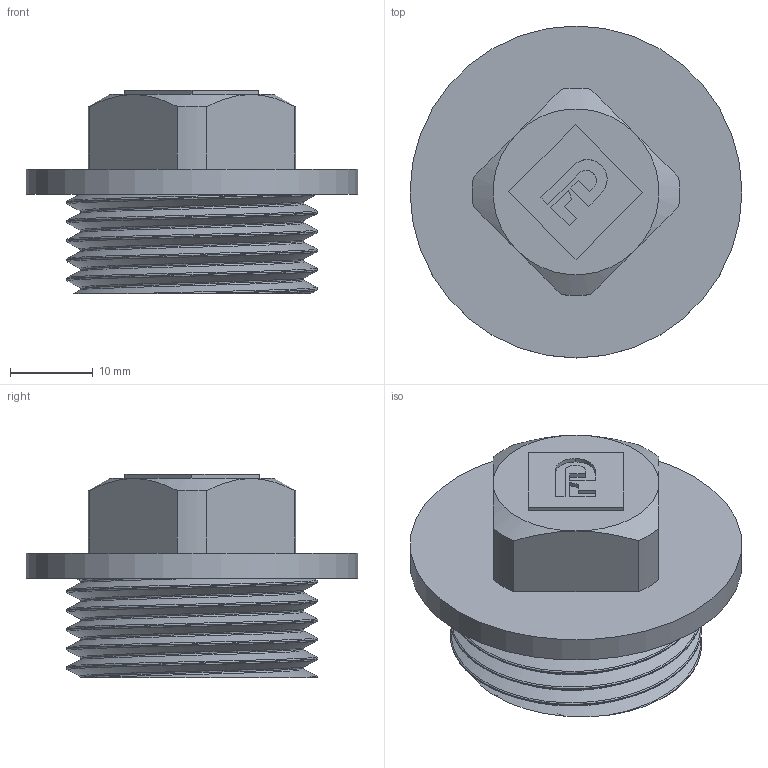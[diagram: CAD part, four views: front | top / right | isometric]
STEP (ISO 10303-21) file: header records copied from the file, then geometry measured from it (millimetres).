
FILE_DESCRIPTION(/* description */ (''),/* implementation_level */ '2;1');
FILE_NAME(/* name */ 'C:\Users\Doom\Desktop\Фадотех\Резьба\ZN03 18.03.2020\ZN03 18.03.2020.stp',/* time_stamp */ '2022-01-22T15:24:43+02:00',/* author */ ('Doom'),/* organization */ (''),/* preprocessor_version */ 'ST-DEVELOPER v18',/* originating_system */ 'Autodesk Inventor 2020',/* authorisation */ '');
FILE_SCHEMA (('AUTOMOTIVE_DESIGN { 1 0 10303 214 3 1 1 }'));
Length unit declared in the file: millimetre
Products named in the file (1): ZN03 18.03.2020
Bounding box: 40 x 40 x 24.5 mm (x, y, z)
Volume: 8459.2 mm3; surface area: 8838.9 mm2
Topology: 2 solids, 2 shells, 63 faces, 161 edges, 109 vertices
Faces by surface type: plane 33, cylinder 16, bspline 10, cone 4
Full cylindrical faces by diameter (mm): 16 x1, 24.5 x1, 26.866 x2, 30.29 x5, 40 x1
Entity records: 5197 total; most frequent: CARTESIAN_POINT 3708, ORIENTED_EDGE 322, DIRECTION 257, EDGE_CURVE 161, VERTEX_POINT 109, AXIS2_PLACEMENT_3D 88, LINE 81, VECTOR 81
